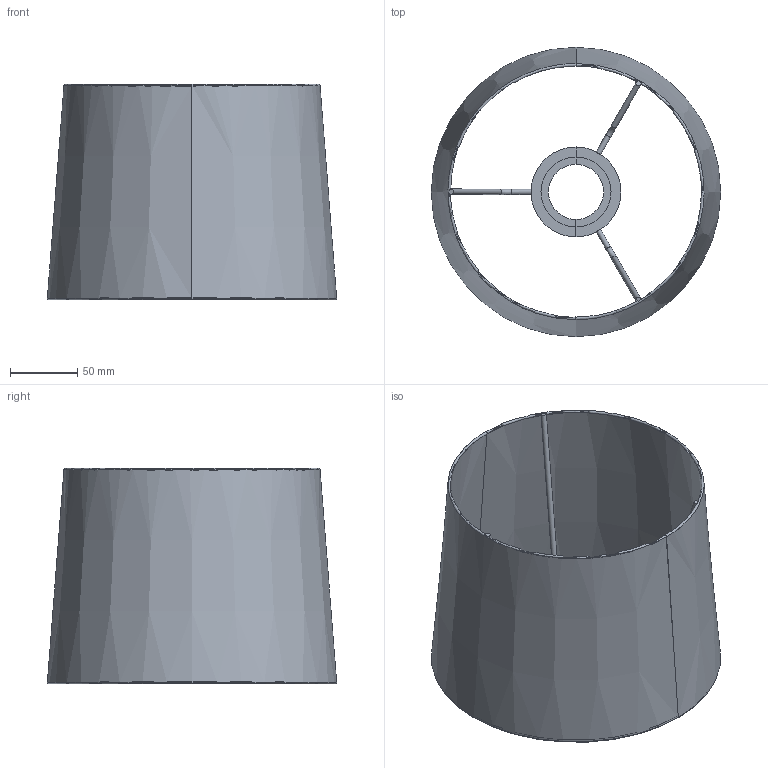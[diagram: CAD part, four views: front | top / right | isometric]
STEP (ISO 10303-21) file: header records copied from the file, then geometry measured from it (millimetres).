
FILE_DESCRIPTION(/* description */ (''),/* implementation_level */ '2;1');
FILE_NAME(/* name */ 'C:\Users\francosartori\Documents\Modelos\01_Digitalizados\0_Pantallas\03_Publicación\2P011X\2P0111.stp',/* time_stamp */ '2020-05-29T09:04:27+02:00',/* author */ ('FrancoSartori'),/* organization */ (''),/* preprocessor_version */ 'ST-DEVELOPER v18.1',/* originating_system */ 'AutoCAD Mechanical',/* authorisation */ '');
FILE_SCHEMA (('AUTOMOTIVE_DESIGN { 1 0 10303 214 3 1 1 }'));
Length unit declared in the file: millimetre
Products named in the file (2): Product; 2P0111_SHADE - Shade-447607-_3D_
Assembly tree (1 placements, depth 2):
  Product
    2P0111_SHADE - Shade-447607-_3D_
Bounding box: 214.84 x 214.84 x 160 mm (x, y, z)
Volume: 171534.1 mm3; surface area: 416703 mm2
Topology: 7 solids, 7 shells, 56 faces, 106 edges, 56 vertices
Faces by surface type: cylinder 20, plane 18, torus 10, cone 8
Entity records: 2379 total; most frequent: CARTESIAN_POINT 1221, DIRECTION 242, ORIENTED_EDGE 212, EDGE_CURVE 106, AXIS2_PLACEMENT_3D 101, FACE_OUTER_BOUND 56, EDGE_LOOP 56, VERTEX_POINT 56
